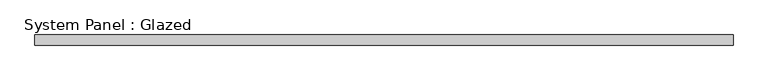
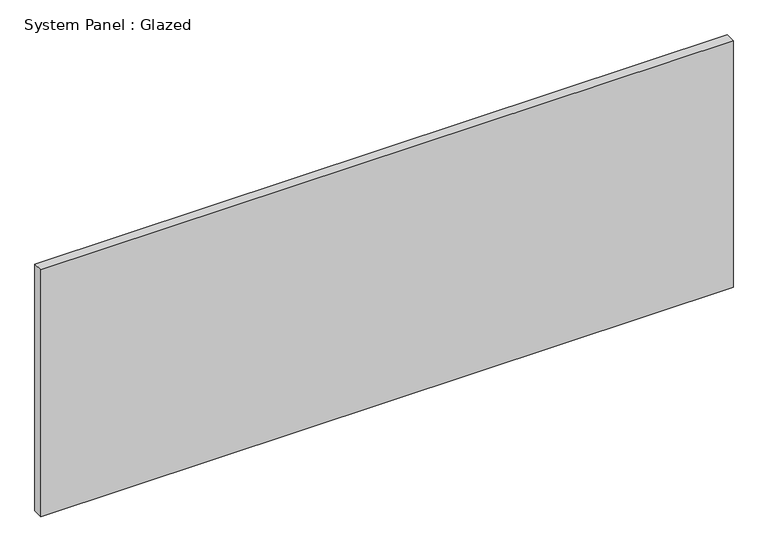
"""IFC4 building model written with IfcOpenShell, lengths in millimetres: plate geometry, System Panel : Glazed."""

from ifc_helpers import new_model, si_unit, origin, origin_with_axes, place, context, project, spatial, polyline, outline, extrude, source, transform, mapped, element, save


def system_panel_glazed_6be78d54(model_context):
    return source(origin(), model_context, "Body", "SweptSolid", [
        extrude(outline(polyline([(862.5000002, -49.5), (-862.5000002, -49.5), (-862.5000002, -24.5), (862.5000002, -24.5), (862.5000002, -49.5)])), origin_with_axes(), (0.0, 0.0, 1.0), 650.0),
    ])


if __name__ == "__main__":
    model = new_model("IFC4")
    model_context = context("Model", 3, world=origin())
    ifc_project = project(units=[si_unit("LENGTHUNIT", "METRE", prefix="MILLI")], contexts=[model_context])
    site = spatial("IfcSite", under=ifc_project)
    building = spatial("IfcBuilding", under=site)
    placement = place(None, origin())
    system_panel_glazed_shape = system_panel_glazed_6be78d54(model_context)
    element("IfcPlate", 1, ObjectType="System Panel : Glazed", at=placement, inside=building, context=model_context, shape_type="MappedRepresentation", body=[
        mapped(system_panel_glazed_shape, transform((0.0, 0.0, 0.0), x_axis=(1.0, 0.0, 0.0), y_axis=(0.0, 1.0, 0.0), z_axis=(0.0, 0.0, 1.0))),
    ])
    save(model, "model.ifc")
